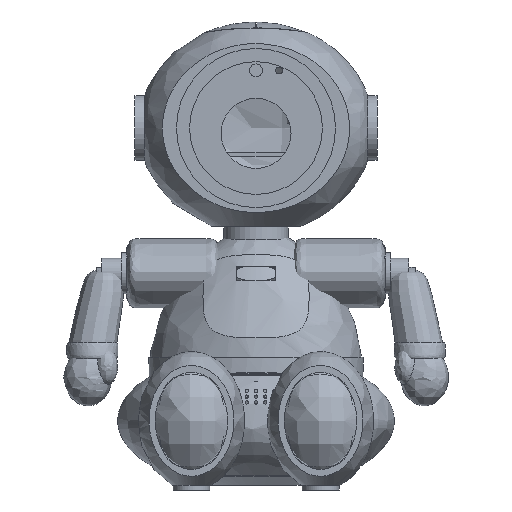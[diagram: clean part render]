
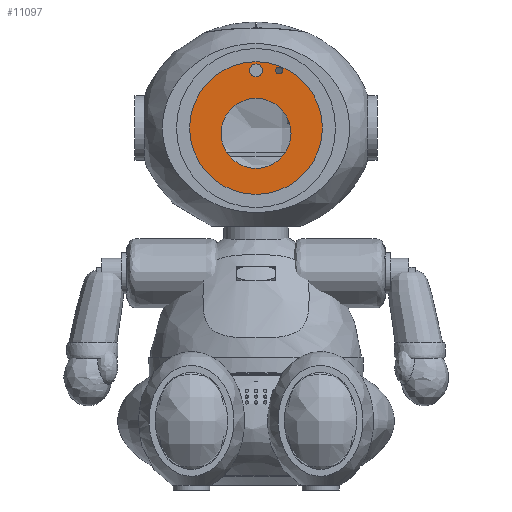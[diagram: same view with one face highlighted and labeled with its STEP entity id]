
A CAD part, front view. The second image highlights one B-rep face of the part: STEP entity #11097.
In plain terms, the highlighted planar face has unit normal (0, -1, 0).
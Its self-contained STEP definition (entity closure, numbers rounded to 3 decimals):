
#11036 = VERTEX_POINT('',#11037);
#11037 = CARTESIAN_POINT('',(0.,-27.789,199.735));
#11043 = EDGE_CURVE('',#11036,#11036,#11044,.T.);
#11044 = CIRCLE('',#11045,30.96);
#11045 = AXIS2_PLACEMENT_3D('',#11046,#11047,#11048);
#11046 = CARTESIAN_POINT('',(0.,-27.789,168.775));
#11047 = DIRECTION('',(0.,1.,0.));
#11048 = DIRECTION('',(0.,0.,1.));
#11097 = ADVANCED_FACE('',(#11098,#11101,#11112,#11123),#11134,.F.);
#11098 = FACE_BOUND('',#11099,.F.);
#11099 = EDGE_LOOP('',(#11100));
#11100 = ORIENTED_EDGE('',*,*,#11043,.T.);
#11101 = FACE_BOUND('',#11102,.F.);
#11102 = EDGE_LOOP('',(#11103));
#11103 = ORIENTED_EDGE('',*,*,#11104,.F.);
#11104 = EDGE_CURVE('',#11105,#11105,#11107,.T.);
#11105 = VERTEX_POINT('',#11106);
#11106 = CARTESIAN_POINT('',(0.,-27.789,182.595));
#11107 = CIRCLE('',#11108,16.32);
#11108 = AXIS2_PLACEMENT_3D('',#11109,#11110,#11111);
#11109 = CARTESIAN_POINT('',(0.,-27.789,166.275));
#11110 = DIRECTION('',(0.,1.,0.));
#11111 = DIRECTION('',(0.,0.,1.));
#11112 = FACE_BOUND('',#11113,.F.);
#11113 = EDGE_LOOP('',(#11114));
#11114 = ORIENTED_EDGE('',*,*,#11115,.F.);
#11115 = EDGE_CURVE('',#11116,#11116,#11118,.T.);
#11116 = VERTEX_POINT('',#11117);
#11117 = CARTESIAN_POINT('',(0.,-27.789,198.65));
#11118 = CIRCLE('',#11119,3.);
#11119 = AXIS2_PLACEMENT_3D('',#11120,#11121,#11122);
#11120 = CARTESIAN_POINT('',(0.,-27.789,195.65));
#11121 = DIRECTION('',(0.,1.,0.));
#11122 = DIRECTION('',(0.,0.,1.));
#11123 = FACE_BOUND('',#11124,.F.);
#11124 = EDGE_LOOP('',(#11125));
#11125 = ORIENTED_EDGE('',*,*,#11126,.F.);
#11126 = EDGE_CURVE('',#11127,#11127,#11129,.T.);
#11127 = VERTEX_POINT('',#11128);
#11128 = CARTESIAN_POINT('',(10.75,-27.789,197.25));
#11129 = CIRCLE('',#11130,1.6);
#11130 = AXIS2_PLACEMENT_3D('',#11131,#11132,#11133);
#11131 = CARTESIAN_POINT('',(10.75,-27.789,195.65));
#11132 = DIRECTION('',(0.,1.,0.));
#11133 = DIRECTION('',(0.,0.,1.));
#11134 = PLANE('',#11135);
#11135 = AXIS2_PLACEMENT_3D('',#11136,#11137,#11138);
#11136 = CARTESIAN_POINT('',(0.,-27.789,168.775));
#11137 = DIRECTION('',(0.,1.,0.));
#11138 = DIRECTION('',(0.,0.,1.));
